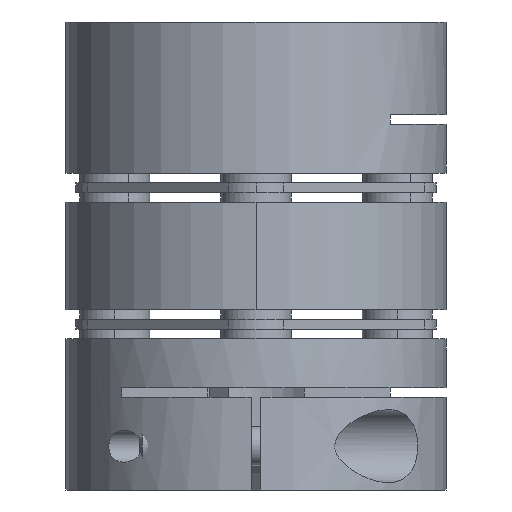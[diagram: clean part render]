
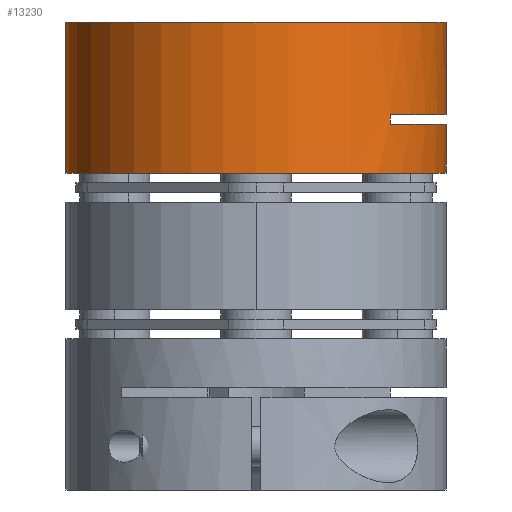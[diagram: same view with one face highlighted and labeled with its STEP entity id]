
A CAD part, front view. The second image highlights one B-rep face of the part: STEP entity #13230.
In plain terms, the highlighted cylindrical face has radius 19.5 mm (diameter 39 mm), a partial arc.
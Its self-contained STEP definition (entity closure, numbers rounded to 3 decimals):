
#954 = CARTESIAN_POINT ( 'NONE',  ( 12.822, 37.663, 117.596 ) ) ;
#1082 = VERTEX_POINT ( 'NONE', #6606 ) ;
#1316 = VERTEX_POINT ( 'NONE', #14056 ) ;
#1413 = VECTOR ( 'NONE', #3399, 1000. ) ;
#1494 = CARTESIAN_POINT ( 'NONE',  ( -6.678, 37.663, 117.596 ) ) ;
#1933 = ORIENTED_EDGE ( 'NONE', *, *, #8213, .F. ) ;
#2210 = VECTOR ( 'NONE', #18435, 1000. ) ;
#2245 = VERTEX_POINT ( 'NONE', #3826 ) ;
#2521 = DIRECTION ( 'NONE',  ( 0., 0., -1. ) ) ;
#2682 = LINE ( 'NONE', #4333, #2210 ) ;
#3064 = CARTESIAN_POINT ( 'NONE',  ( 12.822, 37.663, 107.096 ) ) ;
#3399 = DIRECTION ( 'NONE',  ( 0., 0., 1. ) ) ;
#3422 = CARTESIAN_POINT ( 'NONE',  ( -26.178, 37.663, 102.096 ) ) ;
#3826 = CARTESIAN_POINT ( 'NONE',  ( 12.822, 37.663, 117.596 ) ) ;
#4207 = AXIS2_PLACEMENT_3D ( 'NONE', #6773, #17759, #8367 ) ;
#4219 = VERTEX_POINT ( 'NONE', #14935 ) ;
#4333 = CARTESIAN_POINT ( 'NONE',  ( 12.822, 37.663, 117.596 ) ) ;
#4512 = CARTESIAN_POINT ( 'NONE',  ( -6.678, 37.663, 108.096 ) ) ;
#4856 = CIRCLE ( 'NONE', #16174, 19.5 ) ;
#5373 = VERTEX_POINT ( 'NONE', #7607 ) ;
#5422 = DIRECTION ( 'NONE',  ( 0., 0., 1. ) ) ;
#5711 = EDGE_CURVE ( 'NONE', #2245, #19488, #2682, .T. ) ;
#6048 = DIRECTION ( 'NONE',  ( -1., 0., 0. ) ) ;
#6057 = DIRECTION ( 'NONE',  ( 0., 0., -1. ) ) ;
#6070 = EDGE_CURVE ( 'NONE', #13262, #5373, #6814, .T. ) ;
#6504 = EDGE_CURVE ( 'NONE', #1316, #12052, #15606, .T. ) ;
#6507 = DIRECTION ( 'NONE',  ( 0., 0., 1. ) ) ;
#6606 = CARTESIAN_POINT ( 'NONE',  ( 7.111, 23.874, 108.096 ) ) ;
#6773 = CARTESIAN_POINT ( 'NONE',  ( -6.678, 37.663, 107.096 ) ) ;
#6814 = LINE ( 'NONE', #954, #10507 ) ;
#7607 = CARTESIAN_POINT ( 'NONE',  ( 12.822, 37.663, 102.096 ) ) ;
#8213 = EDGE_CURVE ( 'NONE', #1316, #2245, #18461, .T. ) ;
#8367 = DIRECTION ( 'NONE',  ( -1., 0., 0. ) ) ;
#9383 = DIRECTION ( 'NONE',  ( -1., 0., 0. ) ) ;
#9461 = FACE_OUTER_BOUND ( 'NONE', #14154, .T. ) ;
#9468 = VECTOR ( 'NONE', #18969, 1000. ) ;
#9765 = LINE ( 'NONE', #12815, #1413 ) ;
#9847 = ORIENTED_EDGE ( 'NONE', *, *, #19036, .T. ) ;
#10136 = AXIS2_PLACEMENT_3D ( 'NONE', #1494, #6057, #9383 ) ;
#10507 = VECTOR ( 'NONE', #2521, 1000. ) ;
#10881 = CARTESIAN_POINT ( 'NONE',  ( 12.822, 37.663, 108.096 ) ) ;
#11709 = CYLINDRICAL_SURFACE ( 'NONE', #10136, 19.5 ) ;
#12052 = VERTEX_POINT ( 'NONE', #3422 ) ;
#12278 = ORIENTED_EDGE ( 'NONE', *, *, #12623, .T. ) ;
#12431 = EDGE_CURVE ( 'NONE', #19488, #1082, #15412, .T. ) ;
#12623 = EDGE_CURVE ( 'NONE', #4219, #1082, #9765, .T. ) ;
#12815 = CARTESIAN_POINT ( 'NONE',  ( 7.111, 23.874, 117.596 ) ) ;
#13230 = ADVANCED_FACE ( 'NONE', ( #9461 ), #11709, .T. ) ;
#13262 = VERTEX_POINT ( 'NONE', #3064 ) ;
#14056 = CARTESIAN_POINT ( 'NONE',  ( -26.178, 37.663, 117.596 ) ) ;
#14154 = EDGE_LOOP ( 'NONE', ( #19567, #1933, #19504, #17183, #18607, #9847, #12278, #16250 ) ) ;
#14819 = CARTESIAN_POINT ( 'NONE',  ( -6.678, 37.663, 117.596 ) ) ;
#14935 = CARTESIAN_POINT ( 'NONE',  ( 7.111, 23.874, 107.096 ) ) ;
#15412 = CIRCLE ( 'NONE', #19856, 19.5 ) ;
#15463 = DIRECTION ( 'NONE',  ( 0., 0., -1. ) ) ;
#15606 = LINE ( 'NONE', #17402, #9468 ) ;
#15919 = CARTESIAN_POINT ( 'NONE',  ( -6.678, 37.663, 102.096 ) ) ;
#16170 = AXIS2_PLACEMENT_3D ( 'NONE', #14819, #5422, #16398 ) ;
#16174 = AXIS2_PLACEMENT_3D ( 'NONE', #15919, #6507, #17517 ) ;
#16250 = ORIENTED_EDGE ( 'NONE', *, *, #12431, .F. ) ;
#16398 = DIRECTION ( 'NONE',  ( 1., 0., 0. ) ) ;
#17183 = ORIENTED_EDGE ( 'NONE', *, *, #20051, .T. ) ;
#17402 = CARTESIAN_POINT ( 'NONE',  ( -26.178, 37.663, 117.596 ) ) ;
#17517 = DIRECTION ( 'NONE',  ( 1., 0., 0. ) ) ;
#17759 = DIRECTION ( 'NONE',  ( 0., 0., -1. ) ) ;
#18435 = DIRECTION ( 'NONE',  ( 0., 0., -1. ) ) ;
#18461 = CIRCLE ( 'NONE', #16170, 19.5 ) ;
#18607 = ORIENTED_EDGE ( 'NONE', *, *, #6070, .F. ) ;
#18969 = DIRECTION ( 'NONE',  ( 0., 0., -1. ) ) ;
#19036 = EDGE_CURVE ( 'NONE', #13262, #4219, #20011, .T. ) ;
#19488 = VERTEX_POINT ( 'NONE', #10881 ) ;
#19504 = ORIENTED_EDGE ( 'NONE', *, *, #6504, .T. ) ;
#19567 = ORIENTED_EDGE ( 'NONE', *, *, #5711, .F. ) ;
#19856 = AXIS2_PLACEMENT_3D ( 'NONE', #4512, #15463, #6048 ) ;
#20011 = CIRCLE ( 'NONE', #4207, 19.5 ) ;
#20051 = EDGE_CURVE ( 'NONE', #12052, #5373, #4856, .T. ) ;
